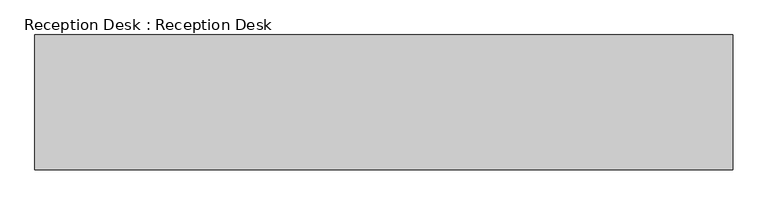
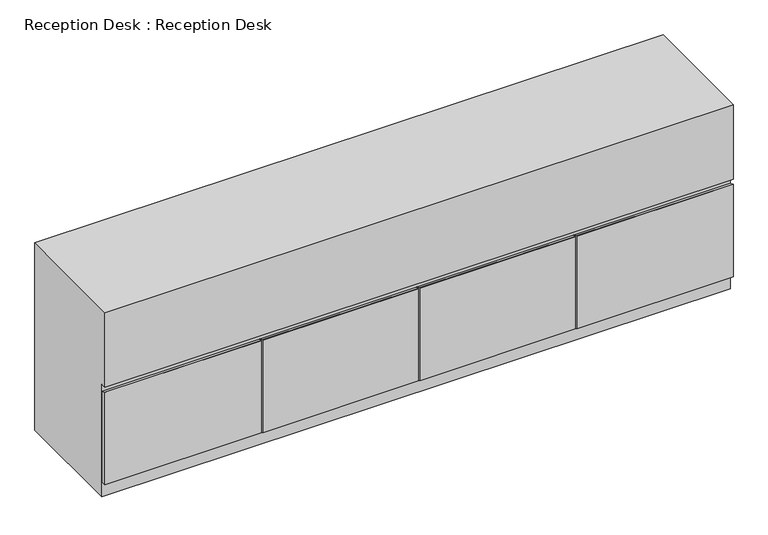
"""IFC4 building model written with IfcOpenShell, lengths in millimetres: furniture geometry, Reception Desk : Reception Desk."""

from ifc_helpers import new_model, si_unit, frame, origin, place, context, project, spatial, polyline, outline, extrude, source, transform, mapped, element, save


def reception_desk_reception_desk_96397bd5(model_context):
    return source(origin(), model_context, "Body", "SweptSolid", [
        extrude(outline(polyline([(0.0, 750.0), (0.0, 0.0), (-440.0, 0.0), (-440.0, 450.0), (-460.0, 450.0), (-460.0, 750.0), (0.0, 750.0)])), frame((-1190.0, 0.0, 0.0), z_axis=(1.0, 0.0, 0.0), x_axis=(0.0, 1.0, 0.0)), (0.0, 0.0, 1.0), 2380.0),
        extrude(outline(polyline([(-440.0, 60.0), (-460.0, 60.0), (-460.0, 430.0), (-457.9166667, 430.0), (-440.0, 422.7205953), (-440.0, 60.0)])), frame((-1190.0, 0.0, 0.0), z_axis=(1.0, 0.0, 0.0), x_axis=(0.0, 1.0, 0.0)), (0.0, 0.0, 1.0), 592.5),
        extrude(outline(polyline([(-440.0, 60.0), (-460.0, 60.0), (-460.0, 430.0), (-457.9166667, 430.0), (-440.0, 422.7205953), (-440.0, 60.0)])), frame((-592.5, 0.0, 0.0), z_axis=(1.0, 0.0, 0.0), x_axis=(0.0, 1.0, 0.0)), (0.0, 0.0, 1.0), 590.0),
        extrude(outline(polyline([(-440.0, 60.0), (-460.0, 60.0), (-460.0, 430.0), (-457.9166667, 430.0), (-440.0, 422.7205953), (-440.0, 60.0)])), frame((2.5, 0.0, 0.0), z_axis=(1.0, 0.0, 0.0), x_axis=(0.0, 1.0, 0.0)), (0.0, 0.0, 1.0), 590.0),
        extrude(outline(polyline([(-440.0, 60.0), (-460.0, 60.0), (-460.0, 430.0), (-457.9166667, 430.0), (-440.0, 422.7205953), (-440.0, 60.0)])), frame((597.5, 0.0, 0.0), z_axis=(1.0, 0.0, 0.0), x_axis=(0.0, 1.0, 0.0)), (0.0, 0.0, 1.0), 592.5),
    ])


if __name__ == "__main__":
    model = new_model("IFC4")
    model_context = context("Model", 3, world=origin())
    ifc_project = project(units=[si_unit("LENGTHUNIT", "METRE", prefix="MILLI")], contexts=[model_context])
    site = spatial("IfcSite", under=ifc_project)
    building = spatial("IfcBuilding", under=site)
    placement = place(None, origin())
    reception_desk_reception_desk_shape = reception_desk_reception_desk_96397bd5(model_context)
    element("IfcFurniture", 1, ObjectType="Reception Desk : Reception Desk", at=placement, inside=building, context=model_context, shape_type="MappedRepresentation", body=[
        mapped(reception_desk_reception_desk_shape, transform((0.0, 0.0, 0.0), x_axis=(1.0, 0.0, 0.0), y_axis=(0.0, 1.0, 0.0), z_axis=(0.0, 0.0, 1.0))),
    ])
    save(model, "model.ifc")
